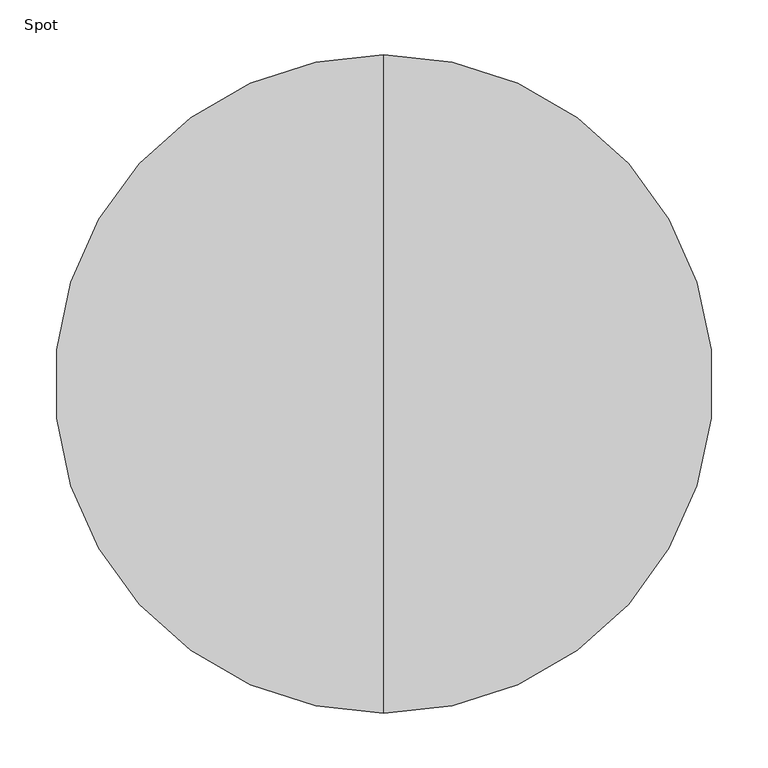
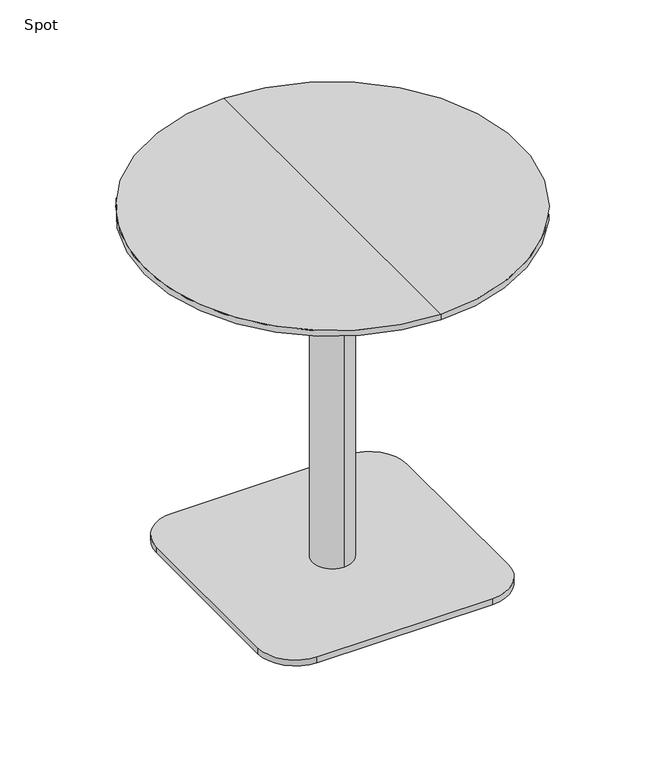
"""IFC4 building model written with IfcOpenShell, lengths in millimetres: furniture geometry, Spot : Bø60x60s."""

from ifc_helpers import new_model, si_unit, point, frame, frame_2d, origin, origin_with_axes, place, context, project, spatial, polyline, circle_curve, trimmed, segment, composite_curve, outline, extrude, source, transform, mapped, element, save
from ifc_brep_helpers import plane_surface, cylinder_surface, revolved_surface, advanced_brep


def spot_859ae4ff(model_context):
    return source(origin(), model_context, "Body", "SolidModel", [
        advanced_brep(
        [(0.0, -300.0, 600.0), (0.0, 300.0, 600.0), (0.0, 0.0, 600.0), (0.0, 300.0, 590.25), (0.0, -300.0, 590.25), (0.0, 0.0, 578.0), (0.0, -254.2823776, 578.0), (0.0, 254.2823776, 578.0)],
        [
            (0, 1, circle_curve(frame((0.0, 0.0, 600.0), z_axis=(0.0, 0.0, 1.0), x_axis=(0.0, -1.0, 0.0)), 300.0)),
            (1, 2),
            (2, 0),
            (3, 4, circle_curve(frame((0.0, 0.0, 590.25), z_axis=(0.0, 0.0, 1.0), x_axis=(0.0, -1.0, 0.0)), 300.0)),
            (4, 0),
            (0, 1, circle_curve(frame((0.0, 0.0, 600.0), z_axis=(0.0, 0.0, -1.0), x_axis=(0.0, -1.0, 0.0)), 300.0)),
            (1, 3),
            (5, 6),
            (6, 7, circle_curve(frame((0.0, 0.0, 578.0), z_axis=(0.0, 0.0, -1.0), x_axis=(0.0, -1.0, 0.0)), 254.2823776)),
            (7, 5),
            (7, 6, circle_curve(frame((0.0, 0.0, 578.0), z_axis=(0.0, 0.0, -1.0), x_axis=(0.0, -1.0, 0.0)), 254.2823776)),
            (4, 3, circle_curve(frame((0.0, 0.0, 590.25), z_axis=(0.0, 0.0, 1.0), x_axis=(0.0, -1.0, 0.0)), 300.0)),
            (6, 4),
            (3, 7),
        ],
        [
            plane_surface(frame((0.0, 0.0, 600.0), z_axis=(0.0, 0.0, 1.0), x_axis=(0.0, -1.0, 0.0))),
            cylinder_surface(frame((0.0, 0.0, 680.0), z_axis=(0.0, 0.0, -1.0), x_axis=(0.0, -1.0, 0.0)), 300.0),
            plane_surface(frame((0.0, 0.0, 578.0), z_axis=(0.0, 0.0, -1.0), x_axis=(0.0, -1.0, 0.0))),
            revolved_surface(polyline([(0.0, -300.0, 590.25), (0.0, -254.2823776, 578.0)]), (0.0, 0.0, 680.0), (0.0, 0.0, -1.0)),
        ],
        [
            (0, [[1, 2, 3]]),
            (1, [[4, 5, 6, 7]]),
            (2, [[8, 9, 10]]),
            (2, [[-10, 11, -8]]),
            (0, [[-6, -3, -2]]),
            (1, [[12, -7, -1, -5]]),
            (3, [[-9, 13, -4, 14]]),
            (3, [[-11, -14, -12, -13]]),
        ],
    ),
        extrude(outline(composite_curve([segment(trimmed(circle_curve(frame_2d((140.0, 140.0)), 60.0), [point((140.0, 200.0))], [point((200.0, 140.0))], False, "CARTESIAN"), True, "CONTINUOUS"), segment(polyline([(200.0, 140.0), (200.0, -140.0)]), True, "CONTINUOUS"), segment(trimmed(circle_curve(frame_2d((140.0, -140.0)), 60.0), [point((200.0, -140.0))], [point((140.0, -200.0))], False, "CARTESIAN"), True, "CONTINUOUS"), segment(polyline([(140.0, -200.0), (-140.0, -200.0)]), True, "CONTINUOUS"), segment(trimmed(circle_curve(frame_2d((-140.0, -140.0)), 60.0), [point((-140.0, -200.0))], [point((-200.0, -140.0))], False, "CARTESIAN"), True, "CONTINUOUS"), segment(polyline([(-200.0, -140.0), (-200.0, 140.0)]), True, "CONTINUOUS"), segment(trimmed(circle_curve(frame_2d((-140.0, 140.0)), 60.0), [point((-200.0, 140.0))], [point((-140.0, 200.0))], False, "CARTESIAN"), True, "CONTINUOUS"), segment(polyline([(-140.0, 200.0), (140.0, 200.0)]), True, "CONTINUOUS")], self_intersect=False)), origin_with_axes(), (0.0, 0.0, 1.0), 10.0),
        advanced_brep(
        [(0.0, 32.0, 10.0), (0.0, -32.0, 10.0), (0.0, -32.0, 547.406916), (0.0, 32.0, 547.406916), (0.0, 0.0, 10.0), (0.0, 150.0, 578.0), (0.0, -150.0, 578.0), (0.0, 0.0, 578.0), (0.0, 150.0, 566.7213673), (0.0, -150.0, 566.7213673)],
        [
            (0, 1, circle_curve(frame((0.0, 0.0, 10.0), z_axis=(0.0, 0.0, 1.0), x_axis=(0.0, -1.0, 0.0)), 32.0)),
            (1, 2),
            (2, 3, circle_curve(frame((0.0, 0.0, 547.406916), z_axis=(0.0, 0.0, -1.0), x_axis=(0.0, -1.0, 0.0)), 32.0)),
            (3, 0),
            (1, 0, circle_curve(frame((0.0, 0.0, 10.0), z_axis=(0.0, 0.0, 1.0), x_axis=(0.0, -1.0, 0.0)), 32.0)),
            (3, 2, circle_curve(frame((0.0, 0.0, 547.406916), z_axis=(0.0, 0.0, -1.0), x_axis=(0.0, -1.0, 0.0)), 32.0)),
            (4, 1),
            (0, 4),
            (5, 6, circle_curve(frame((0.0, 0.0, 578.0), z_axis=(0.0, 0.0, 1.0), x_axis=(0.0, -1.0, 0.0)), 150.0)),
            (6, 7),
            (7, 5),
            (6, 5, circle_curve(frame((0.0, 0.0, 578.0), z_axis=(0.0, 0.0, 1.0), x_axis=(0.0, -1.0, 0.0)), 150.0)),
            (8, 9, circle_curve(frame((0.0, 0.0, 566.7213673), z_axis=(0.0, 0.0, 1.0), x_axis=(0.0, -1.0, 0.0)), 150.0)),
            (9, 6),
            (5, 8),
            (9, 8, circle_curve(frame((0.0, 0.0, 566.7213673), z_axis=(0.0, 0.0, 1.0), x_axis=(0.0, -1.0, 0.0)), 150.0)),
            (2, 9),
            (8, 3),
        ],
        [
            cylinder_surface(frame((0.0, 0.0, 940.0), z_axis=(0.0, 0.0, -1.0), x_axis=(0.0, -1.0, 0.0)), 32.0),
            plane_surface(frame((0.0, 0.0, 10.0), z_axis=(0.0, 0.0, -1.0), x_axis=(0.0, -1.0, 0.0))),
            plane_surface(frame((0.0, 0.0, 578.0), z_axis=(0.0, 0.0, 1.0), x_axis=(0.0, -1.0, 0.0))),
            cylinder_surface(frame((0.0, 0.0, 940.0), z_axis=(0.0, 0.0, -1.0), x_axis=(0.0, -1.0, 0.0)), 150.0),
            revolved_surface(polyline([(0.0, -150.0, 566.7213673), (0.0, -32.0, 547.406916)]), (0.0, 0.0, 940.0), (0.0, 0.0, -1.0)),
        ],
        [
            (0, [[1, 2, 3, 4]]),
            (0, [[5, -4, 6, -2]]),
            (1, [[7, -1, 8]]),
            (1, [[-8, -5, -7]]),
            (2, [[9, 10, 11]]),
            (2, [[12, -11, -10]]),
            (3, [[13, 14, -9, 15]]),
            (3, [[16, -15, -12, -14]]),
            (4, [[-3, 17, -13, 18]]),
            (4, [[-6, -18, -16, -17]]),
        ],
    ),
        extrude(outline(polyline([(0.0, 0.0), (-20.0, 0.0), (-20.0, 20.0), (0.0, 20.0), (0.0, 0.0)])), origin_with_axes(), (0.0, 0.0, 1.0), 10.0),
    ])


if __name__ == "__main__":
    model = new_model("IFC4")
    model_context = context("Model", 3, world=origin())
    ifc_project = project(units=[si_unit("LENGTHUNIT", "METRE", prefix="MILLI")], contexts=[model_context])
    site = spatial("IfcSite", under=ifc_project)
    building = spatial("IfcBuilding", under=site)
    placement = place(None, origin())
    spot_shape = spot_859ae4ff(model_context)
    element("IfcFurniture", 1, ObjectType="Spot : Bø60x60s", at=placement, inside=building, context=model_context, shape_type="MappedRepresentation", body=[
        mapped(spot_shape, transform((0.0, 0.0, 0.0), x_axis=(1.0, 0.0, 0.0), y_axis=(0.0, 1.0, 0.0), z_axis=(0.0, 0.0, 1.0))),
    ])
    save(model, "model.ifc")
